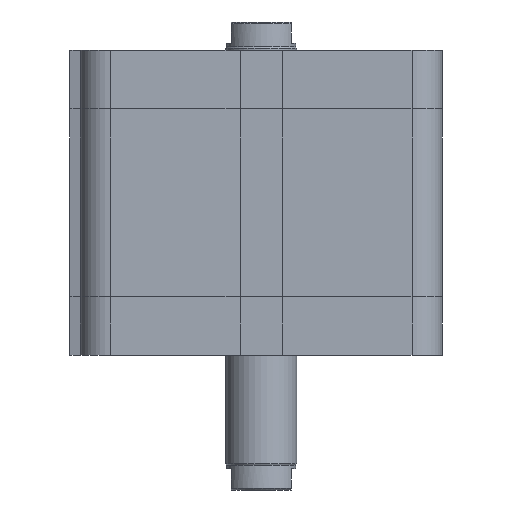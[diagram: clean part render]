
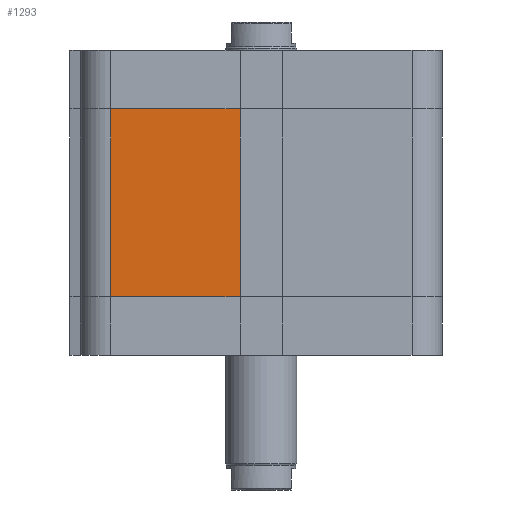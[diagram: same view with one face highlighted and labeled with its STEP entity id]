
A CAD part, left-side view. The second image highlights one B-rep face of the part: STEP entity #1293.
In plain terms, the highlighted planar face has unit normal (-1, 0, 0).
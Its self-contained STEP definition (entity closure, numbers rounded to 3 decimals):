
#1204=CARTESIAN_POINT('',(-51.0,42.5,16.5));
#1205=VERTEX_POINT('',#1204);
#1213=CARTESIAN_POINT('',(-51.0,42.5,69.5));
#1214=VERTEX_POINT('',#1213);
#1215=CARTESIAN_POINT('',(-51.0,42.5,16.5));
#1216=DIRECTION('',(0.0,0.0,1.0));
#1217=VECTOR('',#1216,53.);
#1218=LINE('',#1215,#1217);
#1219=EDGE_CURVE('',#1205,#1214,#1218,.T.);
#1263=CARTESIAN_POINT('',(-51.,6.,0.0));
#1264=DIRECTION('',(-1.0,0.0,0.0));
#1265=DIRECTION('',(0.0,0.0,1.0));
#1266=AXIS2_PLACEMENT_3D('',#1263,#1264,#1265);
#1267=PLANE('',#1266);
#1268=CARTESIAN_POINT('',(-51.,6.,16.5));
#1269=VERTEX_POINT('',#1268);
#1270=CARTESIAN_POINT('',(-51.0,42.5,16.5));
#1271=DIRECTION('',(0.0,-1.0,0.0));
#1272=VECTOR('',#1271,36.5);
#1273=LINE('',#1270,#1272);
#1274=EDGE_CURVE('',#1205,#1269,#1273,.T.);
#1275=ORIENTED_EDGE('',*,*,#1274,.T.);
#1276=CARTESIAN_POINT('',(-51.,6.,69.5));
#1277=VERTEX_POINT('',#1276);
#1278=CARTESIAN_POINT('',(-51.,6.,16.5));
#1279=DIRECTION('',(0.0,0.0,1.0));
#1280=VECTOR('',#1279,53.);
#1281=LINE('',#1278,#1280);
#1282=EDGE_CURVE('',#1269,#1277,#1281,.T.);
#1283=ORIENTED_EDGE('',*,*,#1282,.T.);
#1284=CARTESIAN_POINT('',(-51.0,42.5,69.5));
#1285=DIRECTION('',(0.0,-1.0,0.0));
#1286=VECTOR('',#1285,36.5);
#1287=LINE('',#1284,#1286);
#1288=EDGE_CURVE('',#1214,#1277,#1287,.T.);
#1289=ORIENTED_EDGE('',*,*,#1288,.F.);
#1290=ORIENTED_EDGE('',*,*,#1219,.F.);
#1291=EDGE_LOOP('',(#1275,#1283,#1289,#1290));
#1292=FACE_OUTER_BOUND('',#1291,.T.);
#1293=ADVANCED_FACE('',(#1292),#1267,.T.);
